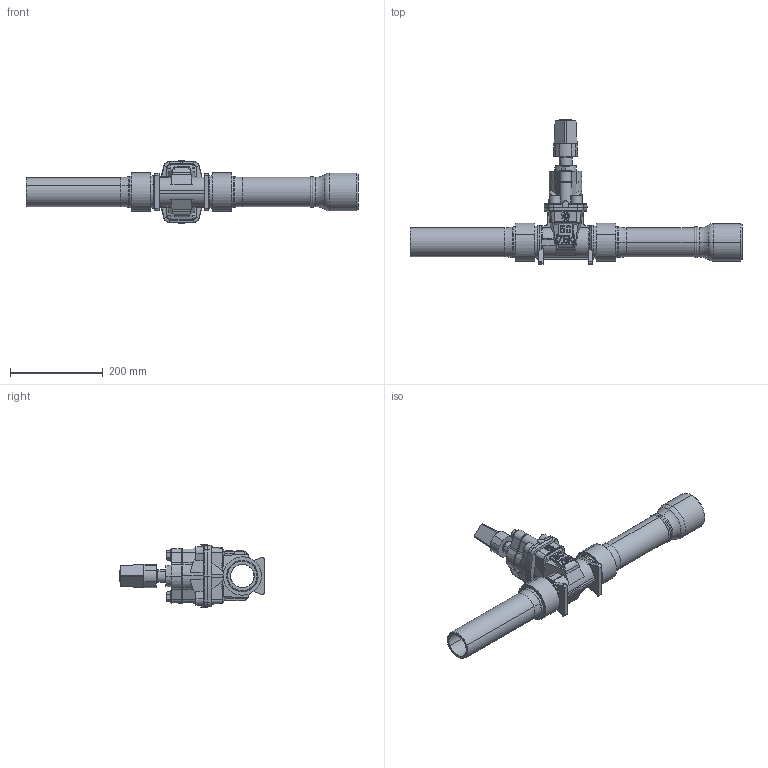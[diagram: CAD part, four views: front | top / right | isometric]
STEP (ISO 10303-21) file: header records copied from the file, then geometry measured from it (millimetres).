
FILE_DESCRIPTION (( 'STEP AP203' ), '1' );
FILE_NAME ('Y05L03101(50).STEP', '2024-12-06T06:55:33', ( '' ), ( '' ), 'SwSTEP 2.0', 'SolidWorks 2019', '' );
FILE_SCHEMA (( 'CONFIG_CONTROL_DESIGN' ));
Length unit declared in the file: millimetre
Products named in the file (1): Y05L03101(50)
Bounding box: 714.9 x 310.74 x 134 mm (x, y, z)
Volume: 2253032.8 mm3; surface area: 369432.1 mm2
Topology: 1 solids, 1 shells, 648 faces, 1671 edges, 1066 vertices
Faces by surface type: plane 318, cone 126, cylinder 113, torus 55, bspline 36
Entity records: 23181 total; most frequent: CARTESIAN_POINT 7735, ORIENTED_EDGE 3334, DIRECTION 3029, EDGE_CURVE 1667, VERTEX_POINT 1066, AXIS2_PLACEMENT_3D 1050, LINE 929, VECTOR 929
